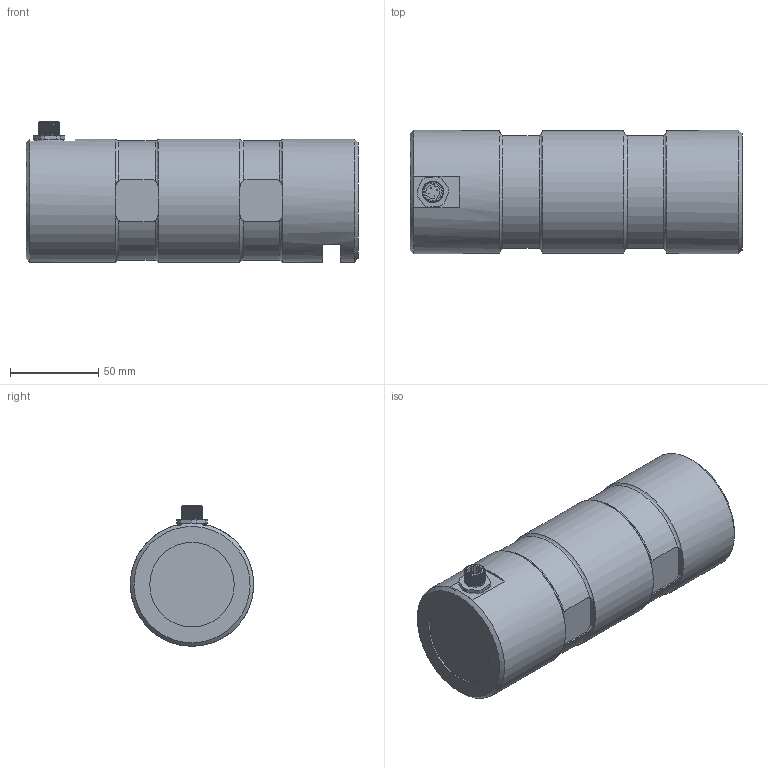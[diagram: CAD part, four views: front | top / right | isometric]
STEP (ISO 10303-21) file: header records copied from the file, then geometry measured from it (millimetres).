
FILE_DESCRIPTION(/* description */ ('Alibre Inc.'),/* implementation_level */ '2;1');
FILE_NAME(/* name */ 'export1',/* time_stamp */ '2014-10-08T11:00:24+02:00',/* author */ (''),/* organization */ (''),/* preprocessor_version */ 'ST-DEVELOPER v14',/* originating_system */ 'Alibre',/* authorisation */ '');
FILE_SCHEMA (('CONFIG_CONTROL_DESIGN'));
Length unit declared in the file: centimetre
Products named in the file (6): ID_1; ID_2; ID_3
Bounding box: 188.5 x 70 x 79.82 mm (x, y, z)
Volume: 701960.2 mm3; surface area: 54603.5 mm2
Topology: 8 solids, 8 shells, 168 faces, 377 edges, 231 vertices
Faces by surface type: plane 71, cylinder 59, bspline 23, torus 9, cone 6
Full cylindrical faces by diameter (mm): 0.5 x8, 8 x2, 10 x4, 11.5 x1, 13 x1, 14.376 x1, 48 x1, 70 x3
Entity records: 16087 total; most frequent: CARTESIAN_POINT 12486, ORIENTED_EDGE 678, DIRECTION 451, EDGE_CURVE 334, VERTEX_POINT 218, FACE_BOUND 211, EDGE_LOOP 210, AXIS2_PLACEMENT_3D 202
